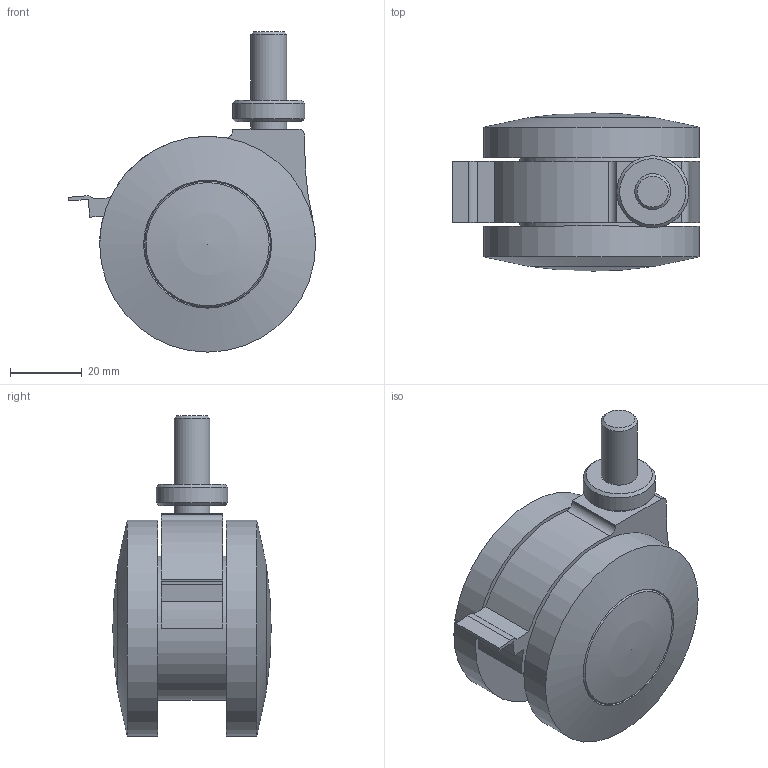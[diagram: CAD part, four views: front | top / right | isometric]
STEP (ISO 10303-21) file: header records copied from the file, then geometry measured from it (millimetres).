
FILE_DESCRIPTION(('STEP AP214'),'1');
FILE_NAME('CA50-V.stp','2017-07-21T02:20:15',(' '),(' '),'Spatial InterOp 3D',' ',' ');
FILE_SCHEMA(('automotive_design'));
Length unit declared in the file: millimetre
Products named in the file (4): CA50-V; CA50Vﾎﾞﾃﾞｨｰ
Assembly tree (3 placements, depth 2):
  CA50-V
    CA50Vﾎﾞﾃﾞｨｰ
    (unnamed)
    (unnamed)
Bounding box: 68.68 x 44 x 89 mm (x, y, z)
Volume: 103629 mm3; surface area: 24448.5 mm2
Topology: 3 solids, 3 shells, 44 faces, 101 edges, 64 vertices
Faces by surface type: plane 20, cylinder 13, cone 7, sphere 4
Full cylindrical faces by diameter (mm): 10 x2, 20 x1, 40 x1, 60 x2
Entity records: 1544 total; most frequent: DIRECTION 211, CARTESIAN_POINT 185, ORIENTED_EDGE 156, AXIS2_PLACEMENT_3D 85, EDGE_CURVE 78, EDGE_LOOP 63, VERTEX_POINT 59, FACE_OUTER_BOUND 52
